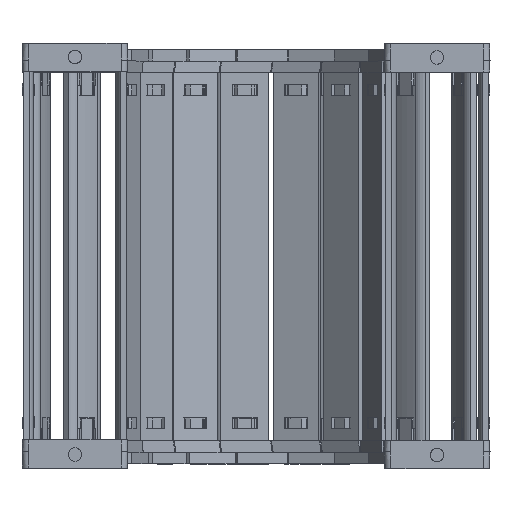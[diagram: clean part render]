
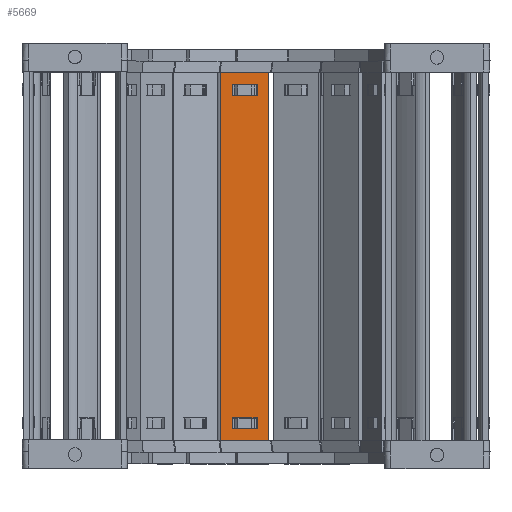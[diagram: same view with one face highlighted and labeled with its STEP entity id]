
A CAD part, top view. The second image highlights one B-rep face of the part: STEP entity #5669.
In plain terms, the highlighted planar face has unit normal (0.035, 0, 0.999) as drawn and (0, 1, 0) by its records, which use the part's own axes.
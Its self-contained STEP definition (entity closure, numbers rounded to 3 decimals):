
#5089=DIRECTION('',(0.,0.,1.));
#5090=VECTOR('',#5089,15.8);
#5091=CARTESIAN_POINT('',(105.74,1.5,-7.9));
#5092=LINE('',#5091,#5090);
#5093=DIRECTION('',(-1.,0.,0.));
#5094=VECTOR('',#5093,120.5);
#5095=CARTESIAN_POINT('',(105.74,1.5,7.9));
#5096=LINE('',#5095,#5094);
#5097=DIRECTION('',(0.,0.,-1.));
#5098=VECTOR('',#5097,15.8);
#5099=CARTESIAN_POINT('',(-14.76,1.5,7.9));
#5100=LINE('',#5099,#5098);
#5101=DIRECTION('',(1.,0.,0.));
#5102=VECTOR('',#5101,3.648);
#5103=CARTESIAN_POINT('',(98.122,1.5,4.075));
#5104=LINE('',#5103,#5102);
#5105=DIRECTION('',(0.,0.,-1.));
#5106=VECTOR('',#5105,8.15);
#5107=CARTESIAN_POINT('',(101.77,1.5,4.075));
#5108=LINE('',#5107,#5106);
#5109=DIRECTION('',(-1.,0.,0.));
#5110=VECTOR('',#5109,3.648);
#5111=CARTESIAN_POINT('',(101.77,1.5,-4.075));
#5112=LINE('',#5111,#5110);
#5113=DIRECTION('',(0.,0.,-1.));
#5114=VECTOR('',#5113,8.15);
#5115=CARTESIAN_POINT('',(-7.142,1.5,4.075));
#5116=LINE('',#5115,#5114);
#5117=DIRECTION('',(-1.,0.,0.));
#5118=VECTOR('',#5117,3.648);
#5119=CARTESIAN_POINT('',(-7.142,1.5,-4.075));
#5120=LINE('',#5119,#5118);
#5121=DIRECTION('',(0.,0.,1.));
#5122=VECTOR('',#5121,8.15);
#5123=CARTESIAN_POINT('',(-10.79,1.5,-4.075));
#5124=LINE('',#5123,#5122);
#5125=DIRECTION('',(1.,0.,0.));
#5126=VECTOR('',#5125,3.648);
#5127=CARTESIAN_POINT('',(-10.79,1.5,4.075));
#5128=LINE('',#5127,#5126);
#5133=DIRECTION('',(-1.,0.,0.));
#5134=VECTOR('',#5133,120.5);
#5135=CARTESIAN_POINT('',(105.74,1.5,-7.9));
#5136=LINE('',#5135,#5134);
#5254=DIRECTION('',(0.,0.,-1.));
#5255=VECTOR('',#5254,8.15);
#5256=CARTESIAN_POINT('',(98.122,1.5,4.075));
#5257=LINE('',#5256,#5255);
#5439=CARTESIAN_POINT('',(101.77,1.5,4.075));
#5440=VERTEX_POINT('',#5439);
#5441=CARTESIAN_POINT('',(98.122,1.5,4.075));
#5442=VERTEX_POINT('',#5441);
#5483=CARTESIAN_POINT('',(98.122,1.5,-4.075));
#5484=VERTEX_POINT('',#5483);
#5485=CARTESIAN_POINT('',(101.77,1.5,-4.075));
#5486=VERTEX_POINT('',#5485);
#5487=CARTESIAN_POINT('',(105.74,1.5,7.9));
#5489=VERTEX_POINT('',#5487);
#5491=CARTESIAN_POINT('',(105.74,1.5,-7.9));
#5492=VERTEX_POINT('',#5491);
#5515=CARTESIAN_POINT('',(-7.142,1.5,4.075));
#5516=CARTESIAN_POINT('',(-7.142,1.5,-4.075));
#5517=VERTEX_POINT('',#5515);
#5518=VERTEX_POINT('',#5516);
#5519=CARTESIAN_POINT('',(-10.79,1.5,-4.075));
#5520=VERTEX_POINT('',#5519);
#5521=CARTESIAN_POINT('',(-10.79,1.5,4.075));
#5522=VERTEX_POINT('',#5521);
#5523=CARTESIAN_POINT('',(-14.76,1.5,7.9));
#5524=VERTEX_POINT('',#5523);
#5527=CARTESIAN_POINT('',(-14.76,1.5,-7.9));
#5528=VERTEX_POINT('',#5527);
#5638=CARTESIAN_POINT('',(137.48,1.5,10.061));
#5639=DIRECTION('',(0.,-1.,0.));
#5640=DIRECTION('',(0.,0.,-1.));
#5641=AXIS2_PLACEMENT_3D('',#5638,#5639,#5640);
#5642=PLANE('',#5641);
#5643=ORIENTED_EDGE('',*,*,#5577,.T.);
#5644=ORIENTED_EDGE('',*,*,#5603,.T.);
#5645=ORIENTED_EDGE('',*,*,#5616,.T.);
#5647=ORIENTED_EDGE('',*,*,#5646,.F.);
#5648=EDGE_LOOP('',(#5643,#5644,#5645,#5647));
#5649=FACE_OUTER_BOUND('',#5648,.F.);
#5651=ORIENTED_EDGE('',*,*,#5650,.F.);
#5652=ORIENTED_EDGE('',*,*,#5540,.T.);
#5654=ORIENTED_EDGE('',*,*,#5653,.T.);
#5656=ORIENTED_EDGE('',*,*,#5655,.T.);
#5657=EDGE_LOOP('',(#5651,#5652,#5654,#5656));
#5658=FACE_BOUND('',#5657,.F.);
#5660=ORIENTED_EDGE('',*,*,#5659,.T.);
#5662=ORIENTED_EDGE('',*,*,#5661,.T.);
#5664=ORIENTED_EDGE('',*,*,#5663,.T.);
#5666=ORIENTED_EDGE('',*,*,#5665,.T.);
#5667=EDGE_LOOP('',(#5660,#5662,#5664,#5666));
#5668=FACE_BOUND('',#5667,.F.);
#5669=ADVANCED_FACE('',(#5649,#5658,#5668),#5642,.F.);
#5540=EDGE_CURVE('',#5442,#5440,#5104,.T.);
#5577=EDGE_CURVE('',#5492,#5489,#5092,.T.);
#5603=EDGE_CURVE('',#5489,#5524,#5096,.T.);
#5616=EDGE_CURVE('',#5524,#5528,#5100,.T.);
#5646=EDGE_CURVE('',#5492,#5528,#5136,.T.);
#5650=EDGE_CURVE('',#5442,#5484,#5257,.T.);
#5653=EDGE_CURVE('',#5440,#5486,#5108,.T.);
#5655=EDGE_CURVE('',#5486,#5484,#5112,.T.);
#5659=EDGE_CURVE('',#5517,#5518,#5116,.T.);
#5661=EDGE_CURVE('',#5518,#5520,#5120,.T.);
#5663=EDGE_CURVE('',#5520,#5522,#5124,.T.);
#5665=EDGE_CURVE('',#5522,#5517,#5128,.T.);
